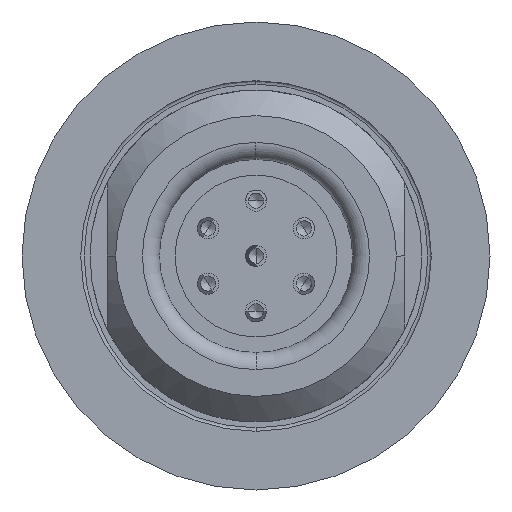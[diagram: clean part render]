
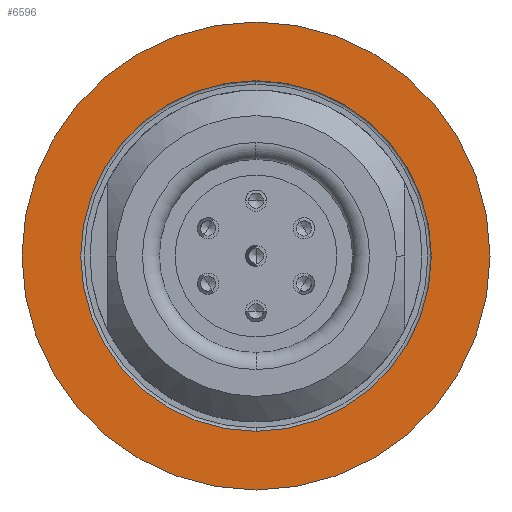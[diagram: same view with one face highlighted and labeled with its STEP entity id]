
A CAD part, left-side view. The second image highlights one B-rep face of the part: STEP entity #6596.
In plain terms, the highlighted planar face has unit normal (-1, 0, 0).
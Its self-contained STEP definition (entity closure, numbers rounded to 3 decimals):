
#789=CARTESIAN_POINT('',(15.5,-27.5,0.0));
#790=VERTEX_POINT('',#789);
#799=CARTESIAN_POINT('',(15.5,27.5,0.));
#800=VERTEX_POINT('',#799);
#801=CARTESIAN_POINT('',(15.5,0.0,0.0));
#802=DIRECTION('',(1.0,0.0,0.0));
#803=DIRECTION('',(0.0,-1.0,0.0));
#804=AXIS2_PLACEMENT_3D('',#801,#802,#803);
#805=CIRCLE('',#804,27.5);
#806=EDGE_CURVE('',#790,#800,#805,.T.);
#830=CARTESIAN_POINT('',(15.5,-20.6,0.0));
#831=VERTEX_POINT('',#830);
#840=CARTESIAN_POINT('',(15.5,20.6,0.));
#841=VERTEX_POINT('',#840);
#842=CARTESIAN_POINT('',(15.5,0.0,0.0));
#843=DIRECTION('',(1.0,0.0,0.0));
#844=DIRECTION('',(0.0,-1.0,0.0));
#845=AXIS2_PLACEMENT_3D('',#842,#843,#844);
#846=CIRCLE('',#845,20.6);
#847=EDGE_CURVE('',#841,#831,#846,.T.);
#6567=CARTESIAN_POINT('',(15.5,0.0,0.0));
#6568=DIRECTION('',(1.0,0.0,0.0));
#6569=DIRECTION('',(0.0,-1.0,0.0));
#6570=AXIS2_PLACEMENT_3D('',#6567,#6568,#6569);
#6571=CIRCLE('',#6570,20.6);
#6572=EDGE_CURVE('',#831,#841,#6571,.T.);
#6577=CARTESIAN_POINT('',(15.5,-24.05,0.0));
#6578=DIRECTION('',(-1.0,0.0,0.0));
#6579=DIRECTION('',(0.0,0.0,1.0));
#6580=AXIS2_PLACEMENT_3D('',#6577,#6578,#6579);
#6581=PLANE('',#6580);
#6582=ORIENTED_EDGE('',*,*,#806,.F.);
#6583=CARTESIAN_POINT('',(15.5,0.0,0.0));
#6584=DIRECTION('',(1.0,0.0,0.0));
#6585=DIRECTION('',(0.0,-1.0,0.0));
#6586=AXIS2_PLACEMENT_3D('',#6583,#6584,#6585);
#6587=CIRCLE('',#6586,27.5);
#6588=EDGE_CURVE('',#800,#790,#6587,.T.);
#6589=ORIENTED_EDGE('',*,*,#6588,.F.);
#6590=EDGE_LOOP('',(#6582,#6589));
#6591=FACE_OUTER_BOUND('',#6590,.T.);
#6592=ORIENTED_EDGE('',*,*,#6572,.T.);
#6593=ORIENTED_EDGE('',*,*,#847,.T.);
#6594=EDGE_LOOP('',(#6592,#6593));
#6595=FACE_BOUND('',#6594,.T.);
#6596=ADVANCED_FACE('',(#6591,#6595),#6581,.T.);
